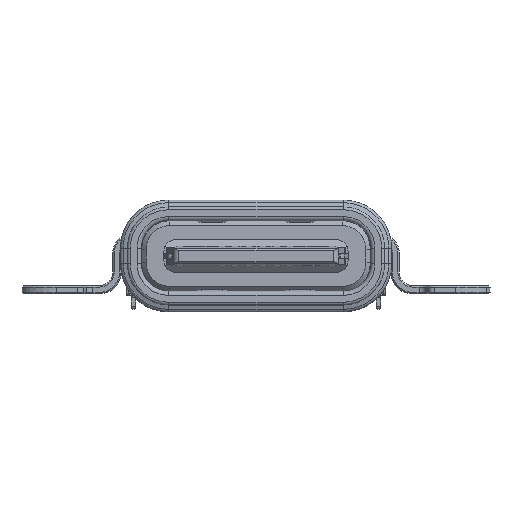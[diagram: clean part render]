
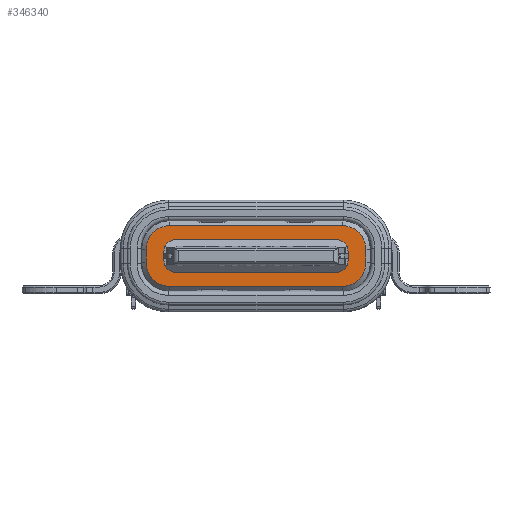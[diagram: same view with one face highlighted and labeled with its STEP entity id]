
A CAD part, front view. The second image highlights one B-rep face of the part: STEP entity #346340.
In plain terms, the highlighted planar face has unit normal (0, -1, 0) as drawn and (1, 0, 0) by its records, which use the part's own axes.
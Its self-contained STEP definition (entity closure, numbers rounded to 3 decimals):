
#215310=CARTESIAN_POINT('',(25.55,0.603,
-14.655));
#215320=VERTEX_POINT('',#215310);
#215350=CARTESIAN_POINT('',(25.55,81.533,
-14.655));
#215360=DIRECTION('',(0.,1.,0.));
#215370=VECTOR('',#215360,1.);
#215380=LINE('',#215350,#215370);
#215390=CARTESIAN_POINT('',(25.55,0.828,
-14.655));
#215400=VERTEX_POINT('',#215390);
#215410=EDGE_CURVE('',#215320,#215400,#215380,.T.);
#215430=CARTESIAN_POINT('',(25.55,81.533,
-14.655));
#215440=DIRECTION('',(0.,-1.,0.));
#215450=VECTOR('',#215440,1.);
#215460=LINE('',#215430,#215450);
#215470=CARTESIAN_POINT('',(25.55,0.903,
-14.655));
#215480=VERTEX_POINT('',#215470);
#215490=EDGE_CURVE('',#215480,#215400,#215460,.T.);
#220080=CARTESIAN_POINT('',(25.55,0.153,
20.496));
#220090=DIRECTION('',(0.,0.,-1.));
#220100=VECTOR('',#220090,1.);
#220110=LINE('',#220080,#220100);
#220120=CARTESIAN_POINT('',(25.55,0.153,
-15.105));
#220130=VERTEX_POINT('',#220120);
#220140=CARTESIAN_POINT('',(25.55,0.153,
-20.895));
#220150=VERTEX_POINT('',#220140);
#220160=EDGE_CURVE('',#220130,#220150,#220110,.T.);
#343950=CARTESIAN_POINT('',(25.55,1.853,
-14.855));
#343960=VERTEX_POINT('',#343950);
#343990=CARTESIAN_POINT('',(25.55,1.003,
-14.855));
#344000=DIRECTION('',(1.,0.,0.));
#344010=DIRECTION('',(0.,1.,0.));
#344020=AXIS2_PLACEMENT_3D('',#343990,#344000,#344010);
#344030=CIRCLE('',#344020,0.85);
#344040=CARTESIAN_POINT('',(25.55,1.003,
-14.005));
#344050=VERTEX_POINT('',#344040);
#344060=EDGE_CURVE('',#343960,#344050,#344030,.T.);
#344260=CARTESIAN_POINT('',(25.55,-0.347,
-14.855));
#344270=VERTEX_POINT('',#344260);
#344300=CARTESIAN_POINT('',(25.55,-0.347,
20.496));
#344310=DIRECTION('',(0.,0.,1.));
#344320=VECTOR('',#344310,1.);
#344330=LINE('',#344300,#344320);
#344340=CARTESIAN_POINT('',(25.55,-0.347,
-21.145));
#344350=VERTEX_POINT('',#344340);
#344360=EDGE_CURVE('',#344350,#344270,#344330,.T.);
#344570=CARTESIAN_POINT('',(25.55,1.853,
-21.145));
#344580=VERTEX_POINT('',#344570);
#344610=CARTESIAN_POINT('',(25.55,1.853,
-21.145));
#344620=DIRECTION('',(0.,0.,1.));
#344630=VECTOR('',#344620,6.29);
#344640=LINE('',#344610,#344630);
#344650=EDGE_CURVE('',#344580,#343960,#344640,.T.);
#344980=CARTESIAN_POINT('',(25.55,0.503,
-21.145));
#344990=DIRECTION('',(1.,0.,0.));
#345000=DIRECTION('',(0.,1.,0.));
#345010=AXIS2_PLACEMENT_3D('',#344980,#344990,#345000);
#345020=CIRCLE('',#345010,0.85);
#345030=CARTESIAN_POINT('',(25.55,0.503,
-21.995));
#345040=VERTEX_POINT('',#345030);
#345050=EDGE_CURVE('',#344350,#345040,#345020,.T.);
#345160=CARTESIAN_POINT('',(25.55,-0.347,
-14.005));
#345170=DIRECTION('',(1.,0.,0.));
#345180=DIRECTION('',(0.,0.,1.));
#345190=AXIS2_PLACEMENT_3D('',#345160,#345170,#345180);
#345200=PLANE('',#345190);
#345210=ORIENTED_EDGE('',*,*,#345050,.T.);
#345220=ORIENTED_EDGE('',*,*,#344360,.F.);
#345230=CARTESIAN_POINT('',(25.55,0.503,
-14.855));
#345240=DIRECTION('',(1.,0.,0.));
#345250=DIRECTION('',(0.,1.,0.));
#345260=AXIS2_PLACEMENT_3D('',#345230,#345240,#345250);
#345270=CIRCLE('',#345260,0.85);
#345280=CARTESIAN_POINT('',(25.55,0.503,
-14.005));
#345290=VERTEX_POINT('',#345280);
#345300=EDGE_CURVE('',#345290,#344270,#345270,.T.);
#345310=ORIENTED_EDGE('',*,*,#345300,.T.);
#345320=CARTESIAN_POINT('',(25.55,81.533,
-14.005));
#345330=DIRECTION('',(0.,1.,0.));
#345340=VECTOR('',#345330,1.);
#345350=LINE('',#345320,#345340);
#345360=CARTESIAN_POINT('',(25.55,0.828,
-14.005));
#345370=VERTEX_POINT('',#345360);
#345380=EDGE_CURVE('',#345290,#345370,#345350,.T.);
#345390=ORIENTED_EDGE('',*,*,#345380,.F.);
#345400=CARTESIAN_POINT('',(25.55,1.003,
-14.005));
#345410=DIRECTION('',(0.,-1.,0.));
#345420=VECTOR('',#345410,0.325);
#345430=LINE('',#345400,#345420);
#345440=EDGE_CURVE('',#344050,#345370,#345430,.T.);
#345450=ORIENTED_EDGE('',*,*,#345440,.T.);
#345460=ORIENTED_EDGE('',*,*,#344060,.T.);
#345470=ORIENTED_EDGE('',*,*,#344650,.T.);
#345480=CARTESIAN_POINT('',(25.55,1.003,
-21.145));
#345490=DIRECTION('',(1.,0.,0.));
#345500=DIRECTION('',(0.,0.,-1.));
#345510=AXIS2_PLACEMENT_3D('',#345480,#345490,#345500);
#345520=CIRCLE('',#345510,0.85);
#345530=CARTESIAN_POINT('',(25.55,1.003,
-21.995));
#345540=VERTEX_POINT('',#345530);
#345550=EDGE_CURVE('',#345540,#344580,#345520,.T.);
#345560=ORIENTED_EDGE('',*,*,#345550,.T.);
#345570=CARTESIAN_POINT('',(25.55,1.003,
-21.995));
#345580=DIRECTION('',(0.,-1.,0.));
#345590=VECTOR('',#345580,0.325);
#345600=LINE('',#345570,#345590);
#345610=CARTESIAN_POINT('',(25.55,0.828,
-21.995));
#345620=VERTEX_POINT('',#345610);
#345630=EDGE_CURVE('',#345540,#345620,#345600,.T.);
#345640=ORIENTED_EDGE('',*,*,#345630,.F.);
#345650=CARTESIAN_POINT('',(25.55,81.533,
-21.995));
#345660=DIRECTION('',(0.,-1.,0.));
#345670=VECTOR('',#345660,1.);
#345680=LINE('',#345650,#345670);
#345690=EDGE_CURVE('',#345620,#345040,#345680,.T.);
#345700=ORIENTED_EDGE('',*,*,#345690,.F.);
#345710=EDGE_LOOP('',(#345700,#345640,#345560,#345470,#345460,#345450,
#345390,#345310,#345220,#345210));
#345720=FACE_OUTER_BOUND('',#345710,.T.);
#345730=CARTESIAN_POINT('',(25.55,81.533,
-21.345));
#345740=DIRECTION('',(0.,1.,0.));
#345750=VECTOR('',#345740,1.);
#345760=LINE('',#345730,#345750);
#345770=CARTESIAN_POINT('',(25.55,0.828,
-21.345));
#345780=VERTEX_POINT('',#345770);
#345790=CARTESIAN_POINT('',(25.55,0.903,
-21.345));
#345800=VERTEX_POINT('',#345790);
#345810=EDGE_CURVE('',#345780,#345800,#345760,.T.);
#345820=ORIENTED_EDGE('',*,*,#345810,.F.);
#345830=CARTESIAN_POINT('',(25.55,0.903,
-20.895));
#345840=DIRECTION('',(-1.,0.,0.));
#345850=DIRECTION('',(0.,0.,-1.));
#345860=AXIS2_PLACEMENT_3D('',#345830,#345840,#345850);
#345870=CIRCLE('',#345860,0.45);
#345880=CARTESIAN_POINT('',(25.55,1.353,
-20.895));
#345890=VERTEX_POINT('',#345880);
#345900=EDGE_CURVE('',#345890,#345800,#345870,.T.);
#345910=ORIENTED_EDGE('',*,*,#345900,.T.);
#345920=CARTESIAN_POINT('',(25.55,1.353,
20.496));
#345930=DIRECTION('',(0.,0.,-1.));
#345940=VECTOR('',#345930,1.);
#345950=LINE('',#345920,#345940);
#345960=CARTESIAN_POINT('',(25.55,1.353,
-15.105));
#345970=VERTEX_POINT('',#345960);
#345980=EDGE_CURVE('',#345970,#345890,#345950,.T.);
#345990=ORIENTED_EDGE('',*,*,#345980,.T.);
#346000=CARTESIAN_POINT('',(25.55,0.903,
-15.105));
#346010=DIRECTION('',(1.,0.,0.));
#346020=DIRECTION('',(0.,0.,1.));
#346030=AXIS2_PLACEMENT_3D('',#346000,#346010,#346020);
#346040=CIRCLE('',#346030,0.45);
#346050=EDGE_CURVE('',#345970,#215480,#346040,.T.);
#346060=ORIENTED_EDGE('',*,*,#346050,.F.);
#346070=ORIENTED_EDGE('',*,*,#215490,.F.);
#346080=ORIENTED_EDGE('',*,*,#215410,.T.);
#346090=CARTESIAN_POINT('',(25.55,0.603,
-15.105));
#346100=DIRECTION('',(-1.,0.,0.));
#346110=DIRECTION('',(0.,0.,-1.));
#346120=AXIS2_PLACEMENT_3D('',#346090,#346100,#346110);
#346130=CIRCLE('',#346120,0.45);
#346140=EDGE_CURVE('',#220130,#215320,#346130,.T.);
#346150=ORIENTED_EDGE('',*,*,#346140,.T.);
#346160=ORIENTED_EDGE('',*,*,#220160,.F.);
#346170=CARTESIAN_POINT('',(25.55,0.603,
-20.895));
#346180=DIRECTION('',(-1.,0.,0.));
#346190=DIRECTION('',(0.,0.,-1.));
#346200=AXIS2_PLACEMENT_3D('',#346170,#346180,#346190);
#346210=CIRCLE('',#346200,0.45);
#346220=CARTESIAN_POINT('',(25.55,0.603,
-21.345));
#346230=VERTEX_POINT('',#346220);
#346240=EDGE_CURVE('',#346230,#220150,#346210,.T.);
#346250=ORIENTED_EDGE('',*,*,#346240,.T.);
#346260=CARTESIAN_POINT('',(25.55,81.533,
-21.345));
#346270=DIRECTION('',(0.,-1.,0.));
#346280=VECTOR('',#346270,1.);
#346290=LINE('',#346260,#346280);
#346300=EDGE_CURVE('',#345780,#346230,#346290,.T.);
#346310=ORIENTED_EDGE('',*,*,#346300,.T.);
#346320=EDGE_LOOP('',(#346310,#346250,#346160,#346150,#346080,#346070,
#346060,#345990,#345910,#345820));
#346330=FACE_BOUND('',#346320,.T.);
#346340=ADVANCED_FACE('',(#345720,#346330),#345200,.T.);
